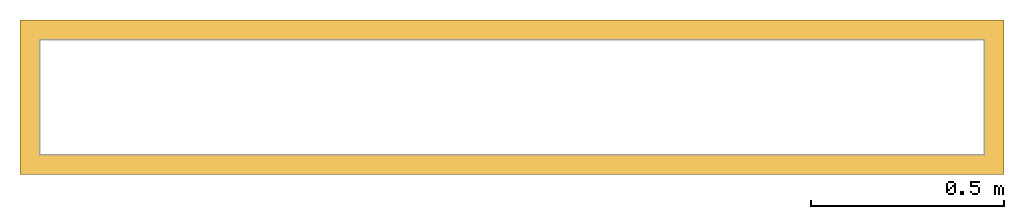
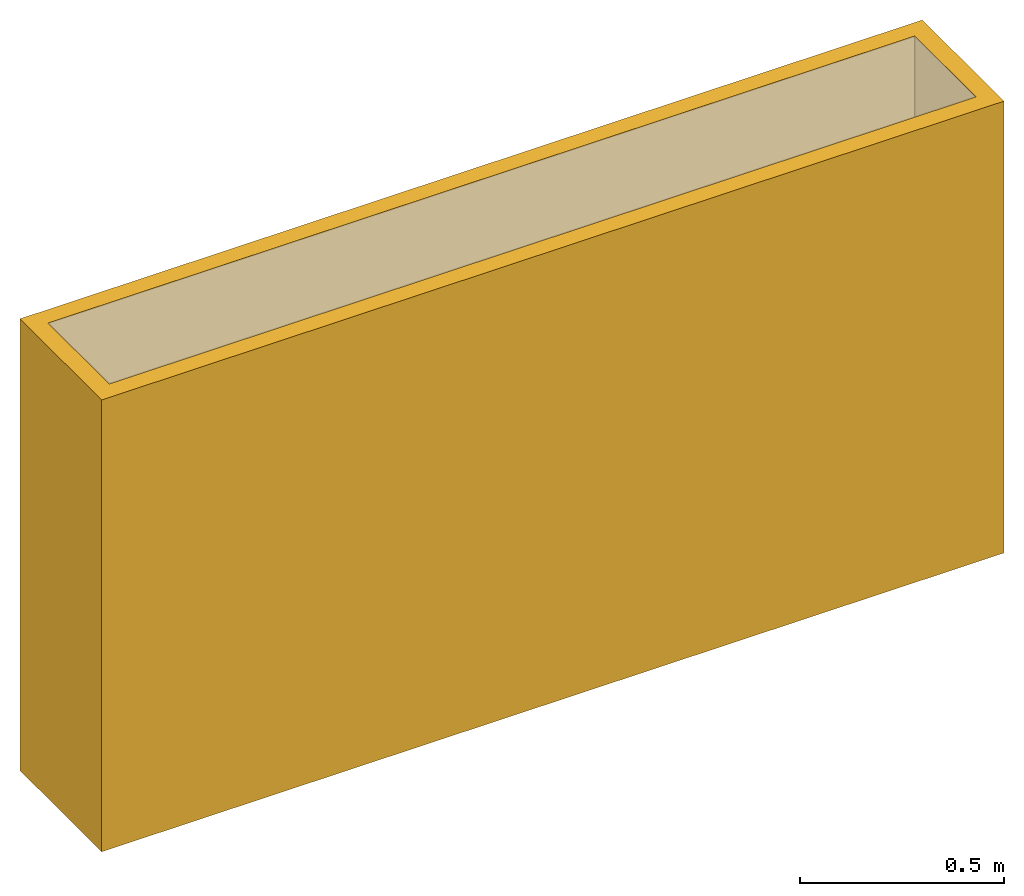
# One storey, part 1 of 2: 1 covering.
"""IFC2X3 building model written with IfcOpenShell, lengths in millimetres."""

from ifc_helpers import new_model, entity, si_unit, converted_unit, derived_unit, direction, frame, origin_with_axes, origin_2d_with_axis, place, context, subcontext, project, spatial, hollow_rectangle, extrude, source, transform, mapped, element, save


model = new_model("IFC2X3")

# Units and contexts
model_context = context("Model", 3, precision=0.01, world=frame((0.0, 4.29681676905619e-09, 0.0)), true_north=direction((4.01073788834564e-13, 1.0)))
plan_context = context("Plan", 3, precision=0.01, world=frame((0.0, 4.29681676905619e-09, 0.0)), true_north=direction((4.01073788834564e-13, 1.0)))
body_context = subcontext(model_context, "Body", "Model", "MODEL_VIEW")
ifc_project = project(units=[converted_unit("PLANEANGLEUNIT", "DEGREE", entity("IfcPositiveLengthMeasure", 0.0174532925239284), si_unit("PLANEANGLEUNIT", "RADIAN"), dimensions=[0, 0, 0, 0, 0, 0, 0]), si_unit("AREAUNIT", "SQUARE_METRE"), si_unit("LENGTHUNIT", "METRE", prefix="MILLI"), si_unit("MASSUNIT", "GRAM", prefix="KILO"), si_unit("POWERUNIT", "WATT"), si_unit("PRESSUREUNIT", "PASCAL"), si_unit("FORCEUNIT", "NEWTON", prefix="KILO"), si_unit("ELECTRICVOLTAGEUNIT", "VOLT"), si_unit("ELECTRICCURRENTUNIT", "AMPERE"), si_unit("THERMODYNAMICTEMPERATUREUNIT", "DEGREE_CELSIUS"), si_unit("TIMEUNIT", "SECOND"), si_unit("VOLUMEUNIT", "CUBIC_METRE"), derived_unit("LINEARVELOCITYUNIT", [(si_unit("LENGTHUNIT", "METRE"), 1), (si_unit("TIMEUNIT", "SECOND"), -1)]), derived_unit("VOLUMETRICFLOWRATEUNIT", [(si_unit("VOLUMEUNIT", "CUBIC_METRE"), 1), (si_unit("TIMEUNIT", "SECOND"), -1)]), derived_unit("THERMALTRANSMITTANCEUNIT", [(si_unit("POWERUNIT", "WATT"), 1), (si_unit("THERMODYNAMICTEMPERATUREUNIT", "KELVIN"), -1), (si_unit("AREAUNIT", "SQUARE_METRE"), -1)]), derived_unit("SOUNDPRESSUREUNIT", [(si_unit("PRESSUREUNIT", "PASCAL"), 1)])], contexts=[model_context, plan_context])

# Site, building, storey
site_placement = place(None, frame((0.0, -4.29681676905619e-09, 0.0), z_axis=(0.0, 0.0, 1.0), x_axis=(1.0, 0.0, 0.0)))
site = spatial("IfcSite", under=ifc_project, at=site_placement, Name="ENGM", CompositionType="ELEMENT")
building_placement = place(site_placement, frame((0.0, 4.29681676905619e-09, 0.0), z_axis=(0.0, 0.0, 1.0), x_axis=(1.0, 0.0, 0.0)))
building = spatial("IfcBuilding", under=site, at=building_placement, Name="TI", CompositionType="ELEMENT")
storey_placement = place(building_placement, frame((0.0, 0.0, 207370.0), z_axis=(0.0, 0.0, 1.0), x_axis=(1.0, 0.0, 0.0)))
storey = spatial("IfcBuildingStorey", under=building, at=storey_placement, Name="Nivå E", CompositionType="ELEMENT", Elevation=207370.0)

# Covering
shared_shape = source(origin_with_axes(), body_context, "Body", "SweptSolid", [
    extrude(hollow_rectangle(XDim=2550.0, YDim=400.0, WallThickness=50.0, at=origin_2d_with_axis()), frame((0.0, 0.0, 0.0), z_axis=(1.0, 0.0, 0.0), x_axis=(0.0, 1.0, 0.0)), (0.0, 0.0, 1.0), 1350.0),
])
covering_placement = place(storey_placement, frame((600526.86708, 699025.62991, 3679.97521), z_axis=(0.0, 1.0, 0.0), x_axis=(0.0, 0.0, 1.0)))
element("IfcCovering", 1, at=covering_placement, inside=storey, Name="050mm", PredefinedType="INSULATION", context=body_context, shape_type="MappedRepresentation", body=[
    mapped(shared_shape, transform((0.0, 0.0, 0.0), scale=1.0)),
])

save(model, "model.ifc")
